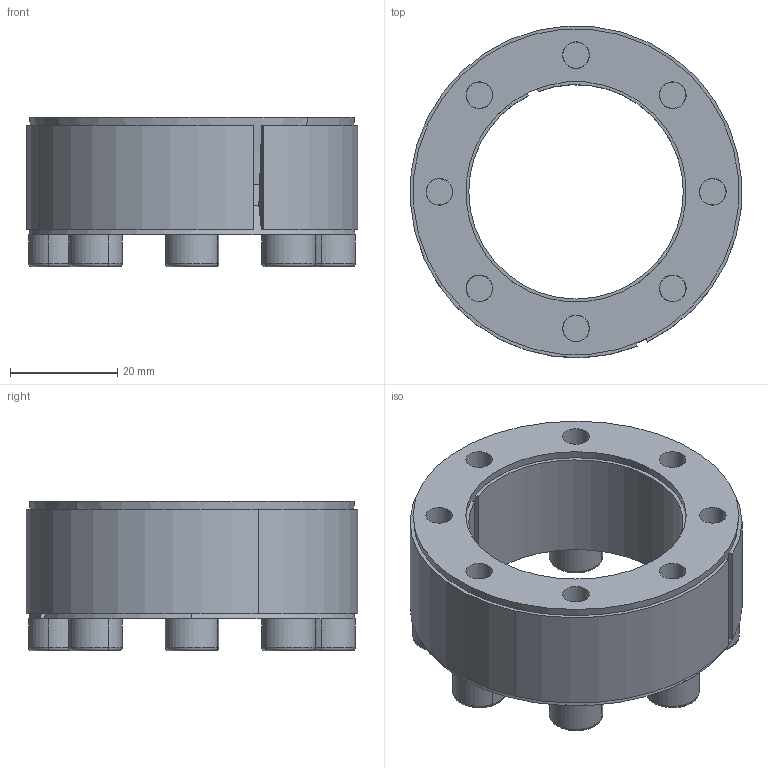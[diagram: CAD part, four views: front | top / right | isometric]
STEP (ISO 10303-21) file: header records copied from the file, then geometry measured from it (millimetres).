
FILE_DESCRIPTION (( 'STEP AP214' ), '1' );
FILE_NAME ('CONEX-L-40x62.step', '2013-04-06T13:22:47', ( 'Pc' ), ( '' ), 'SwSTEP 2.0', 'SolidWorks 2013', '' );
FILE_SCHEMA (( 'AUTOMOTIVE_DESIGN' ));
Length unit declared in the file: millimetre
Products named in the file (1): CONEX-L-40x62
Bounding box: 61.84 x 61.89 x 27.97 mm (x, y, z)
Volume: 36011.5 mm3; surface area: 30251.2 mm2
Topology: 11 solids, 11 shells, 289 faces, 663 edges, 396 vertices
Faces by surface type: plane 131, cylinder 78, cone 48, torus 32
Entity records: 11433 total; most frequent: DIRECTION 1532, CARTESIAN_POINT 1369, ORIENTED_EDGE 1294, EDGE_CURVE 647, AXIS2_PLACEMENT_3D 603, VERTEX_POINT 396, EDGE_LOOP 347, VECTOR 326
